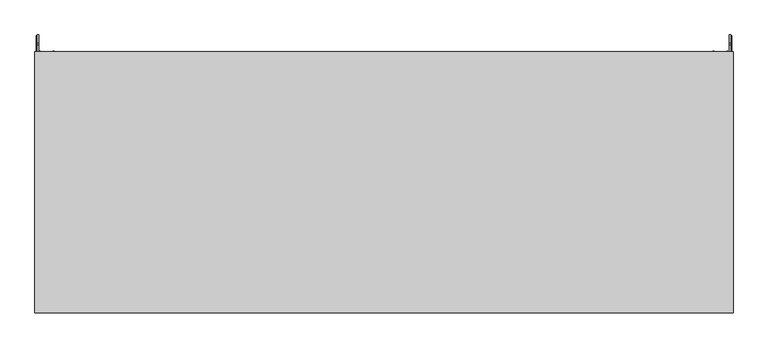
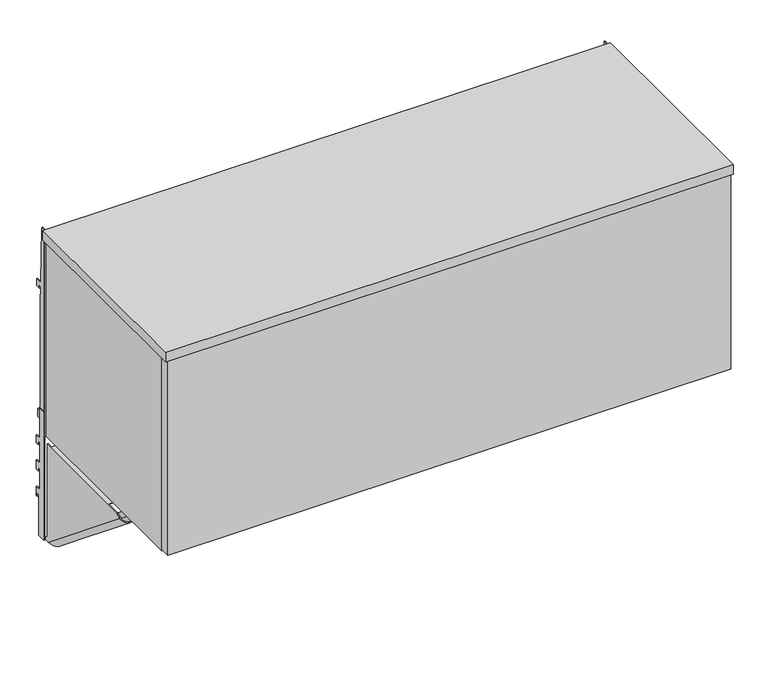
"""IFC4 building model written with IfcOpenShell, lengths in millimetres: furniture geometry, Steelcase - Universal Storage - In the Case Bin - Flat Front : For Montage - 42W."""

from ifc_helpers import new_model, si_unit, point, frame, frame_2d, origin, place, context, project, spatial, polyline, circle_curve, ellipse_curve, trimmed, segment, composite_curve, outline, extrude, faceted_brep, source, transform, mapped, element, save
from ifc_brep_helpers import plane_surface, cylinder_surface, revolved_surface, advanced_brep


def furniture_783a7f6e(model_context):
    return source(origin(), model_context, "Body", "SolidModel", [
        extrude(outline(polyline([(14.7026351, 1295.4127), (14.7026351, 1236.5862384), (24.9864881, 1236.5862384), (24.9864881, 1220.7113353), (18.8396885, 1220.7113353), (18.8396885, 1227.061311), (14.7756879, 1227.061311), (14.7756879, 1186.6498969), (24.9864881, 1186.6498969), (24.9864881, 1168.3872762), (18.8396885, 1168.3872762), (18.8396885, 1174.7373246), (14.7756879, 1174.7373246), (14.7756879, 1134.3259105), (24.9864881, 1134.3259105), (24.9864881, 1116.0632897), (21.4050888, 1116.0632897), (21.4050888, 1122.4132655), (17.3410881, 1122.4132655), (17.3410881, 1040.9809), (1.1327479, 1040.9809), (1.1327479, 1295.4127), (14.7026351, 1295.4127)])), frame((2.1844, 0.0, 0.0), z_axis=(1.0, 0.0, 0.0), x_axis=(0.0, 1.0, 0.0)), (0.0, 0.0, 1.0), 1.905),
        extrude(outline(polyline([(14.7026351, 1295.4127), (14.7026351, 1236.5862384), (24.9864881, 1236.5862384), (24.9864881, 1220.7113353), (18.8396885, 1220.7113353), (18.8396885, 1227.061311), (14.7756879, 1227.061311), (14.7756879, 1186.6498969), (24.9864881, 1186.6498969), (24.9864881, 1168.3872762), (18.8396885, 1168.3872762), (18.8396885, 1174.7373246), (14.7756879, 1174.7373246), (14.7756879, 1134.3259105), (24.9864881, 1134.3259105), (24.9864881, 1116.0632897), (21.4050888, 1116.0632897), (21.4050888, 1122.4132655), (17.3410881, 1122.4132655), (17.3410881, 1040.9809), (1.1327479, 1040.9809), (1.1327479, 1295.4127), (14.7026351, 1295.4127)])), frame((1062.7106, 0.0, 0.0), z_axis=(1.0, 0.0, 0.0), x_axis=(0.0, 1.0, 0.0)), (0.0, 0.0, 1.0), 1.905),
        advanced_brep(
        [(1037.7424, -230.0833372, 1233.8431), (1037.7424, 1.1327479, 1046.6079738), (1035.6342, 1.1327479, 1046.6079738), (1035.6342, -230.0833372, 1233.8431), (1035.6342, 1.1327479, 1040.9809), (1035.6342, -7.7654502, 1040.9809), (1035.6342, -240.6555763, 1229.5716381), (1058.9006, -7.7654502, 1040.9809), (1058.9006, -240.6555763, 1229.5716381), (1058.9006, 1.1327479, 1040.9809), (1058.9006, 1.1327479, 1046.6079738), (1058.9006, -3.080512, 1050.019805), (1058.9006, -3.080512, 1233.8431), (1058.9006, -230.0833372, 1233.8431), (1056.7924009, 1.1327479, 1046.6079738), (1056.7924009, -3.080512, 1050.019805), (1056.7924009, -7.7654502, 1040.9809), (1056.7924009, -240.6555763, 1229.5716381), (1056.7924009, -230.0833372, 1233.8431), (1056.7924009, -200.311512, 1233.8431), (1056.7924009, -200.311512, 1233.0049163), (1056.7924009, -14.0787123, 1233.0049163), (1056.7924009, -14.0787123, 1233.8431), (1056.7924009, -3.080512, 1233.8431), (1056.7924009, 1.1327479, 1040.9809), (1037.7424, -7.7654502, 1040.9809), (1037.7424, -240.6555763, 1229.5716381), (1037.7424, 1.1327479, 1040.9809), (1027.8617978, -200.311512, 1233.8431), (1027.8617978, -200.311512, 1252.2581016), (1027.0236, -200.311512, 1252.2581016), (1027.0236, -200.311512, 1233.0049163), (1027.0236, -82.5825138, 1252.2581016), (1027.8617978, -82.5825138, 1252.2581016), (1027.8617978, -82.5825138, 1233.8431), (1027.0236, -82.5825138, 1233.8431), (1027.0236, -14.0787123, 1233.8431), (1027.0236, -14.0787123, 1233.0049163)],
        [
            (0, 1),
            (1, 2),
            (2, 3),
            (3, 0),
            (2, 4),
            (4, 5),
            (5, 6),
            (6, 3),
            (5, 7, ellipse_curve(frame((1047.2674, -7.7654502, 1040.9809), z_axis=(0.0, 0.0, 1.0), x_axis=(0.0, -1.0, 0.0)), 18.4853359, 11.6332)),
            (7, 8),
            (8, 6, ellipse_curve(frame((1047.2674, -240.6555763, 1229.5716381), z_axis=(0.0, 0.374606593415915, -0.9271838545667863), x_axis=(0.0, -0.9271838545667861, -0.3746065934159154)), 13.3008659, 11.6332)),
            (7, 9),
            (9, 10),
            (10, 11),
            (11, 12),
            (12, 13),
            (13, 8),
            (10, 14),
            (14, 15),
            (15, 11),
            (16, 17),
            (17, 18),
            (18, 19),
            (19, 20),
            (20, 21),
            (21, 22),
            (22, 23),
            (23, 15),
            (14, 24),
            (24, 16),
            (16, 25, ellipse_curve(frame((1047.2674005, -7.7654502, 1040.9809), z_axis=(0.0, 0.0, -1.0), x_axis=(0.0, 1.0, 0.0)), 15.135374, 9.5250005)),
            (25, 26),
            (26, 17, ellipse_curve(frame((1047.2674005, -240.6555763, 1229.5716381), z_axis=(0.0, -0.374606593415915, 0.9271838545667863), x_axis=(0.0, 0.9271838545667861, 0.3746065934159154)), 10.8904475, 9.5250005)),
            (0, 26),
            (25, 27),
            (27, 1),
            (13, 18),
            (24, 9),
            (4, 27),
            (28, 29),
            (29, 30),
            (30, 31),
            (31, 20),
            (19, 28),
            (32, 33),
            (33, 34),
            (34, 35),
            (35, 32),
            (35, 36),
            (36, 37),
            (37, 31),
            (30, 32),
            (28, 34),
            (33, 29),
            (36, 22),
            (21, 37),
            (12, 23),
        ],
        [
            plane_surface(frame((1037.7424, -241.2702093, 1242.902052), z_axis=(0.0, 0.6293204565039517, 0.7771459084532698), x_axis=(0.0, 0.7771459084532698, -0.6293204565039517))),
            plane_surface(frame((1035.6342, -241.2702093, 1242.902052), z_axis=(-1.0000000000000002, 0.0, 0.0), x_axis=(0.0, 0.7771459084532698, -0.6293204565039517))),
            cylinder_surface(frame((1047.2674, 5.728998, 1030.0533094), z_axis=(0.0, -0.7771459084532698, 0.6293204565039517), x_axis=(0.0, 0.6293204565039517, 0.7771459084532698)), 11.6332),
            plane_surface(frame((1058.9006, -247.5463438, 1235.1516726), z_axis=(1.0000000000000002, 0.0, 0.0), x_axis=(0.0, 0.7771459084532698, -0.6293204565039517))),
            plane_surface(frame((1058.9006, -241.2702093, 1242.902052), z_axis=(0.0, 0.6293204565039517, 0.7771459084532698), x_axis=(0.0, 0.7771459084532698, -0.6293204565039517))),
            plane_surface(frame((1056.7924009, -241.2702093, 1242.902052), z_axis=(-1.0000000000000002, 0.0, 0.0), x_axis=(0.0, 0.7771459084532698, -0.6293204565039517))),
            revolved_surface(polyline([(1047.2674005, 7.3699238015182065, 1040.980900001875), (1047.2674005, -238.76446812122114, 1240.2966349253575)]), (1047.2674005, 5.728998, 1030.0533094), (0.0, 0.7771459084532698, -0.6293204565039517)),
            plane_surface(frame((1037.7424, -247.5463438, 1235.1516726), z_axis=(1.0000000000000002, 0.0, 0.0), x_axis=(0.0, 0.7771459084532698, -0.6293204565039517))),
            plane_surface(frame((1066.8, -257.2236519, 1222.8777011), z_axis=(0.0, -0.374606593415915, 0.9271838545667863), x_axis=(-1.0, 0.0, 0.0))),
            plane_surface(frame((1066.8, 1.1327479, 1040.9809), z_axis=(0.0, 0.0, -1.0), x_axis=(-1.0, 0.0, 0.0))),
            plane_surface(frame((1066.8, 1.1327479, 1053.6809), z_axis=(0.0, 1.0, 0.0), x_axis=(-1.0, 0.0, 0.0))),
            plane_surface(frame((1027.0236, -200.311512, 1252.2581016), z_axis=(0.0, -1.0, 0.0), x_axis=(0.0, 0.0, -1.0))),
            plane_surface(frame((1027.0236, -82.5825138, 1252.2581016), z_axis=(0.0, 1.0, 0.0), x_axis=(0.0, 0.0, 1.0))),
            plane_surface(frame((1027.0236, -200.311512, 1252.2581016), z_axis=(-1.0, 0.0, 0.0), x_axis=(0.0, 1.0, 0.0))),
            plane_surface(frame((1027.8617978, -200.311512, 1233.8431), z_axis=(1.0, 0.0, 0.0), x_axis=(0.0, 1.0, 0.0))),
            plane_surface(frame((1027.8617978, -200.311512, 1252.2581016), z_axis=(0.0, 0.0, 1.0), x_axis=(0.0, 1.0, 0.0))),
            plane_surface(frame((1027.0236, -14.0787123, 1233.8431), z_axis=(0.0, 1.0, 0.0), x_axis=(0.0, 0.0, 1.0))),
            plane_surface(frame((1027.0236, -200.311512, 1233.0049163), z_axis=(0.0, 0.0, -1.0), x_axis=(0.0, 1.0, 0.0))),
            plane_surface(frame((1058.9006, -200.311512, 1233.8431), z_axis=(0.0, 0.0, 1.0), x_axis=(0.0, 1.0, 0.0))),
            plane_surface(frame((1058.9006, -3.080512, 1050.019805), z_axis=(0.0, 1.0, 0.0), x_axis=(-1.0, 0.0, 0.0))),
        ],
        [
            (0, [[1, 2, 3, 4]]),
            (1, [[-3, 5, 6, 7, 8]]),
            (2, [[-7, 9, 10, 11]]),
            (3, [[-10, 12, 13, 14, 15, 16, 17]]),
            (4, [[18, 19, 20, -14]]),
            (5, [[21, 22, 23, 24, 25, 26, 27, 28, -19, 29, 30]]),
            (6, [[-21, 31, 32, 33]]),
            (7, [[-1, 34, -32, 35, 36]]),
            (8, [[-4, -8, -11, -17, 37, -22, -33, -34]]),
            (9, [[38, -12, -9, -6, 39, -35, -31, -30]]),
            (10, [[-38, -29, -18, -13]]),
            (10, [[-39, -5, -2, -36]]),
            (11, [[40, 41, 42, 43, -24, 44]]),
            (12, [[45, 46, 47, 48]]),
            (13, [[-48, 49, 50, 51, -42, 52]]),
            (14, [[-40, 53, -46, 54]]),
            (15, [[-41, -54, -45, -52]]),
            (16, [[-50, 55, -26, 56]]),
            (17, [[-51, -56, -25, -43]]),
            (18, [[57, -27, -55, -49, -47, -53, -44, -23, -37, -16]]),
            (19, [[-15, -20, -28, -57]]),
        ],
    ),
        advanced_brep(
        [(8.1026, -3.080512, 1050.019805), (8.1026, -3.080512, 1233.8431), (8.1026, -14.0787123, 1233.8431), (8.1026, -14.0787123, 1233.0049163), (8.1026, -200.311512, 1233.0049163), (8.1026, -200.311512, 1233.8431), (8.1026, -230.0833372, 1233.8431), (8.1026, -240.6555763, 1229.5716381), (8.1026, -7.7654502, 1040.9809), (8.1026, 1.1327479, 1040.9809), (8.1026, 1.1327479, 1046.6079738), (5.9944, -3.080512, 1233.8431), (5.9944, -3.080512, 1050.019805), (5.9944, 1.1327479, 1046.6079738), (5.9944, 1.1327479, 1040.9809), (5.9944, -7.7654502, 1040.9809), (5.9944, -240.6555763, 1229.5716381), (5.9944, -230.0833372, 1233.8431), (39.5732022, -200.311512, 1233.8431), (39.5732022, -82.5825138, 1233.8431), (40.4114, -82.5825138, 1233.8431), (40.4114, -14.0787123, 1233.8431), (29.2608, -7.7654502, 1040.9809), (29.2608, -240.6555763, 1229.5716381), (29.2608, 1.1327479, 1040.9809), (29.2608, 1.1327479, 1046.6079738), (29.2608, -230.0833372, 1233.8431), (27.1526009, 1.1327479, 1046.6079738), (27.1526009, -230.0833372, 1233.8431), (27.1526009, 1.1327479, 1040.9809), (27.1526009, -7.7654502, 1040.9809), (27.1526009, -240.6555763, 1229.5716381), (40.4114, -200.311512, 1233.0049163), (40.4114, -200.311512, 1252.2581016), (39.5732022, -200.311512, 1252.2581016), (40.4114, -14.0787123, 1233.0049163), (40.4114, -82.5825138, 1252.2581016), (39.5732022, -82.5825138, 1252.2581016)],
        [
            (0, 1),
            (1, 2),
            (2, 3),
            (3, 4),
            (4, 5),
            (5, 6),
            (6, 7),
            (7, 8),
            (8, 9),
            (9, 10),
            (10, 0),
            (11, 12),
            (12, 13),
            (13, 14),
            (14, 15),
            (15, 16),
            (16, 17),
            (17, 11),
            (17, 6),
            (5, 18),
            (18, 19),
            (19, 20),
            (20, 21),
            (21, 2),
            (1, 11),
            (0, 12),
            (10, 13),
            (15, 22, ellipse_curve(frame((17.6276, -7.7654502, 1040.9809), z_axis=(0.0, 0.0, 1.0), x_axis=(0.0, -1.0, 0.0)), 18.4853359, 11.6332)),
            (22, 23),
            (23, 16, ellipse_curve(frame((17.6276, -240.6555763, 1229.5716381), z_axis=(0.0, 0.374606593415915, -0.9271838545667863), x_axis=(0.0, -0.9271838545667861, -0.3746065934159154)), 13.3008659, 11.6332)),
            (22, 24),
            (24, 25),
            (25, 26),
            (26, 23),
            (25, 27),
            (27, 28),
            (28, 26),
            (27, 29),
            (29, 30),
            (30, 31),
            (31, 28),
            (7, 31, ellipse_curve(frame((17.6276005, -240.6555763, 1229.5716381), z_axis=(0.0, -0.374606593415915, 0.9271838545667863), x_axis=(0.0, 0.9271838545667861, 0.3746065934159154)), 10.8904475, 9.5250005)),
            (30, 8, ellipse_curve(frame((17.6276005, -7.7654502, 1040.9809), z_axis=(0.0, 0.0, -1.0), x_axis=(0.0, 1.0, 0.0)), 15.135374, 9.5250005)),
            (14, 9),
            (29, 24),
            (4, 32),
            (32, 33),
            (33, 34),
            (34, 18),
            (21, 35),
            (35, 3),
            (35, 32),
            (20, 36),
            (36, 33),
            (19, 37),
            (37, 36),
            (37, 34),
        ],
        [
            plane_surface(frame((8.1026, -230.0833372, 1233.8431), z_axis=(1.0, 0.0, 0.0), x_axis=(0.0, -1.0, 0.0))),
            plane_surface(frame((5.9944, -230.0833372, 1233.8431), z_axis=(-1.0, 0.0, 0.0), x_axis=(0.0, 1.0, 0.0))),
            plane_surface(frame((8.1026, -3.080512, 1233.8431), z_axis=(0.0, 0.0, 1.0), x_axis=(-1.0, 0.0, 0.0))),
            plane_surface(frame((8.1026, -3.080512, 1050.019805), z_axis=(0.0, 1.0, 0.0), x_axis=(-1.0, 0.0, 0.0))),
            plane_surface(frame((8.1026, -241.2702093, 1242.902052), z_axis=(0.0, 0.6293204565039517, 0.7771459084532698), x_axis=(0.0, 0.7771459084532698, -0.6293204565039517))),
            cylinder_surface(frame((17.6276, 5.728998, 1030.0533094), z_axis=(0.0, -0.7771459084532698, 0.6293204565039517), x_axis=(1.0, 0.0, 0.0)), 11.6332),
            plane_surface(frame((29.2608, -247.5463438, 1235.1516726), z_axis=(1.0000000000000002, 0.0, 0.0), x_axis=(0.0, 0.7771459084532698, -0.6293204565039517))),
            plane_surface(frame((29.2608, -241.2702093, 1242.902052), z_axis=(0.0, 0.6293204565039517, 0.7771459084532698), x_axis=(0.0, 0.7771459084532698, -0.6293204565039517))),
            plane_surface(frame((27.1526009, -241.2702093, 1242.902052), z_axis=(-1.0000000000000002, 0.0, 0.0), x_axis=(0.0, 0.7771459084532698, -0.6293204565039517))),
            revolved_surface(polyline([(27.152601, 1.375646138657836, 1033.5785848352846), (27.152601, -244.75874578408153, 1232.8943197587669)]), (17.6276005, 5.728998, 1030.0533094), (0.0, 0.7771459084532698, -0.6293204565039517)),
            plane_surface(frame((1066.8, -257.2236519, 1222.8777011), z_axis=(0.0, -0.374606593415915, 0.9271838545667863), x_axis=(-1.0, 0.0, 0.0))),
            plane_surface(frame((1066.8, 1.1327479, 1040.9809), z_axis=(0.0, 0.0, -1.0), x_axis=(-1.0, 0.0, 0.0))),
            plane_surface(frame((1066.8, 1.1327479, 1053.6809), z_axis=(0.0, 1.0, 0.0), x_axis=(-1.0, 0.0, 0.0))),
            plane_surface(frame((10.5986151, -200.311512, 1233.8431), z_axis=(0.0, -1.0, 0.0), x_axis=(-1.0, 0.0, 0.0))),
            plane_surface(frame((10.5986151, -14.0787123, 1233.8431), z_axis=(0.0, 1.0, 0.0), x_axis=(1.0, 0.0, 0.0))),
            plane_surface(frame((8.1026, -200.311512, 1233.0049163), z_axis=(0.0, 0.0, -1.0), x_axis=(0.0, 1.0, 0.0))),
            plane_surface(frame((40.4114, -200.311512, 1233.0049163), z_axis=(1.0, 0.0, 0.0), x_axis=(0.0, 1.0, 0.0))),
            plane_surface(frame((38.1509305, -82.5825138, 1252.2581016), z_axis=(0.0, 1.0, 0.0), x_axis=(1.0, 0.0, 0.0))),
            plane_surface(frame((40.4114, -200.311512, 1252.2581016), z_axis=(0.0, 0.0, 1.0), x_axis=(0.0, 1.0, 0.0))),
            plane_surface(frame((39.5732022, -200.311512, 1252.2581016), z_axis=(-1.0, 0.0, 0.0), x_axis=(0.0, 1.0, 0.0))),
        ],
        [
            (0, [[1, 2, 3, 4, 5, 6, 7, 8, 9, 10, 11]]),
            (1, [[12, 13, 14, 15, 16, 17, 18]]),
            (2, [[-18, 19, -6, 20, 21, 22, 23, 24, -2, 25]]),
            (3, [[-1, 26, -12, -25]]),
            (4, [[-26, -11, 27, -13]]),
            (5, [[-16, 28, 29, 30]]),
            (6, [[-29, 31, 32, 33, 34]]),
            (7, [[-33, 35, 36, 37]]),
            (8, [[-36, 38, 39, 40, 41]]),
            (9, [[-8, 42, -40, 43]]),
            (10, [[-7, -19, -17, -30, -34, -37, -41, -42]]),
            (11, [[44, -9, -43, -39, 45, -31, -28, -15]]),
            (12, [[-44, -14, -27, -10]]),
            (12, [[-45, -38, -35, -32]]),
            (13, [[46, 47, 48, 49, -20, -5]]),
            (14, [[50, 51, -3, -24]]),
            (15, [[-46, -4, -51, 52]]),
            (16, [[-47, -52, -50, -23, 53, 54]]),
            (17, [[-53, -22, 55, 56]]),
            (18, [[-48, -54, -56, 57]]),
            (19, [[-49, -57, -55, -21]]),
        ],
    ),
        faceted_brep([(1047.8516023, -9.7789998, 1640.3955), (1047.8516023, -9.7789998, 1652.2572326), (1047.8516023, -10.6172003, 1652.2572326), (1047.8516023, -10.6172003, 1639.557281), (1047.8516023, -0.8382, 1639.557281), (1047.8516023, -0.8382266, 1640.3955), (17.0434001, -9.7789998, 1640.3955), (17.0434001, -0.8382, 1640.3955), (17.0434001, -0.8382011, 1639.557281), (17.0434001, -10.6172003, 1639.557281), (17.0434001, -10.6172003, 1652.2572326), (17.0434001, -9.7789998, 1652.2572326), (1050.4837557, -30.9238769, 1640.3955), (1051.3187599, -30.850824, 1640.3955), (1048.6930117, -0.8382, 1640.3955), (1062.7106, -0.8382, 1640.3955), (1062.7106, 0.1784978, 1640.3955), (2.1844, 0.1784978, 1640.3955), (2.1844, -0.8382, 1640.3955), (16.2019988, -0.8382, 1640.3955), (13.5762335, -30.850824, 1640.3955), (14.4176356, -30.850824, 1640.3955), (1062.7106, 0.1784978, 1247.9655), (1062.7106, -0.8382, 1247.9655), (1048.6930117, -0.8382, 1247.9655), (1051.3187599, -30.850824, 1247.9655), (1050.4837557, -30.9238769, 1247.9655), (1047.8516, -0.8382, 1247.9655), (17.0434002, -0.8382, 1247.9655), (14.4176356, -30.850824, 1247.9655), (13.5762335, -30.850824, 1247.9655), (16.2019988, -0.8382, 1247.9655), (2.1844, -0.8382, 1247.9655), (2.1844, 0.1784978, 1247.9655)], [[[0, 1, 2, 3, 4, 5]], [[6, 7, 8, 9, 10, 11]], [[1, 0, 6, 11]], [[2, 1, 11, 10]], [[3, 2, 10, 9]], [[4, 3, 9, 8]], [[0, 5, 12, 13, 14, 15, 16, 17, 18, 19, 20, 21, 7, 6]], [[22, 23, 24, 25, 26, 27, 28, 29, 30, 31, 32, 33]], [[17, 16, 22, 33]], [[18, 17, 33, 32]], [[19, 18, 32, 31]], [[20, 19, 31, 30]], [[21, 20, 30, 29]], [[7, 21, 29, 28, 8]], [[28, 27, 4, 8]], [[12, 5, 4, 27, 26]], [[13, 12, 26, 25]], [[14, 13, 25, 24]], [[15, 14, 24, 23]], [[16, 15, 23, 22]]]),
        faceted_brep([(1031.3415999, -61.4680004, 1256.4236903), (1031.3415999, -61.4680004, 1248.8037), (1031.3415999, -60.6298021, 1248.8037), (1031.3415999, -60.6298021, 1256.4236903), (33.5534002, -61.4680004, 1256.4236903), (33.5534002, -60.6298021, 1256.4236903), (33.5534002, -60.6298021, 1248.8037), (33.5534002, -61.468, 1248.8037), (17.0434001, -61.4680004, 1248.8037), (17.0434001, -61.4680004, 1247.9655), (1047.8516023, -61.4680004, 1247.9655), (1047.8516023, -61.4680004, 1248.8037), (1047.8516023, -0.8382, 1247.9655), (1047.8516023, -0.8382, 1248.8037), (17.0434001, -0.8382, 1248.8037), (17.0434001, -0.8382, 1247.9655)], [[[0, 1, 2, 3]], [[4, 5, 6, 7]], [[1, 0, 4, 7, 8, 9, 10, 11]], [[3, 2, 6, 5]], [[0, 3, 5, 4]], [[11, 10, 12, 13]], [[8, 14, 15, 9]], [[12, 10, 9, 15]], [[13, 12, 15, 14]], [[11, 13, 14, 8, 7, 6, 2, 1]]]),
        extrude(outline(composite_curve([segment(polyline([(-343.4401318, 1291.8437595), (-377.213238, 1291.8437595), (-377.213238, 1639.09375), (-30.850824, 1639.09375), (-30.850824, 1638.0577444), (-372.9486617, 1638.0577444)]), True, "CONTINUOUS"), segment(trimmed(circle_curve(frame_2d((-372.9486617, 1635.1839261)), 2.8738183), [point((-372.9486617, 1638.0577444))], [point((-375.82248, 1635.1839261))], True, "CARTESIAN"), True, "CONTINUOUS"), segment(polyline([(-375.82248, 1635.1839261), (-375.82248, 1292.9867129), (-343.4401318, 1292.9867129), (-343.4401318, 1291.8437595)]), True, "CONTINUOUS")], self_intersect=False)), frame((525.1266311, 0.0, 0.0), z_axis=(1.0, 0.0, 0.0), x_axis=(0.0, 1.0, 0.0)), (0.0, 0.0, 1.0), 16.5467378),
        extrude(outline(polyline([(1066.8, -399.4977324), (0.0, -399.4977324), (0.0, 0.0), (1066.8, 0.0), (1066.8, -399.4977324)])), frame((0.0, 0.0, 1639.490625), z_axis=(0.0, 0.0, 1.0), x_axis=(1.0, 0.0, 0.0)), (0.0, 0.0, 1.0), 19.05),
        extrude(outline(polyline([(4.4448587, -378.8585852), (1062.3703, -378.8585852), (1062.3703, -399.0261526), (4.4448587, -399.0261526), (4.4448587, -378.8585852)])), frame((0.0, 0.0, 1253.2134107), z_axis=(0.0, 0.0, 1.0), x_axis=(1.0, 0.0, 0.0)), (0.0, 0.0, 1.0), 386.3690475),
        extrude(outline(polyline([(0.0, 1657.096), (10.1677703, 1657.096), (13.3857995, 1545.8185744), (26.0095997, 1545.8185744), (26.0095997, 1532.1025512), (17.5768, 1532.1025512), (17.5768, 1537.1064608), (13.3349998, 1537.1064608), (13.3349998, 1522.6538546), (14.2747998, 1522.6538546), (14.2747998, 1296.0858527), (17.2466001, 1296.0858527), (17.2466001, 1289.7358043), (22.5806007, 1289.7358043), (22.5806007, 1274.2164027), (0.0, 1274.2164027), (0.0, 1657.096)])), frame((1061.2882, 0.0, 0.0), z_axis=(1.0, 0.0, 0.0), x_axis=(0.0, 1.0, 0.0)), (0.0, 0.0, 1.0), 1.905),
        extrude(outline(polyline([(15.875, -377.213238), (5.5118, -377.213238), (5.5118, 0.0), (15.875, 0.0), (15.875, -377.213238)])), frame((0.0, 0.0, 1247.9655), z_axis=(0.0, 0.0, 1.0), x_axis=(1.0, 0.0, 0.0)), (0.0, 0.0, 1.0), 391.2710707),
        extrude(outline(polyline([(1065.6568665, -377.213238), (1050.925, -377.213238), (1050.925, 0.0), (1065.6568665, 0.0), (1065.6568665, -377.213238)])), frame((0.0, 0.0, 1247.9655), z_axis=(0.0, 0.0, 1.0), x_axis=(1.0, 0.0, 0.0)), (0.0, 0.0, 1.0), 391.2710707),
        extrude(outline(polyline([(0.0, 1657.096), (10.1677703, 1657.096), (13.3857995, 1545.8185744), (26.0095997, 1545.8185744), (26.0095997, 1532.1025512), (17.5768, 1532.1025512), (17.5768, 1537.1064608), (13.3349998, 1537.1064608), (13.3349998, 1522.6538546), (14.2747998, 1522.6538546), (14.2747998, 1296.0858527), (17.2466001, 1296.0858527), (17.2466001, 1289.7358043), (22.5806007, 1289.7358043), (22.5806007, 1274.2164027), (0.0, 1274.2164027), (0.0, 1657.096)])), frame((3.6068, 0.0, 0.0), z_axis=(1.0, 0.0, 0.0), x_axis=(0.0, 1.0, 0.0)), (0.0, 0.0, 1.0), 1.905),
        extrude(outline(polyline([(-35.4584098, 1372.819257), (-27.0763996, 1372.819257), (-27.0763996, 1360.1191601), (-33.4264117, 1360.1191601), (-33.4264117, 1323.1622589), (-27.0763996, 1323.1622589), (-27.0763996, 1265.428), (-35.4584098, 1265.428), (-35.4584098, 1293.054213), (-46.1263996, 1293.054213), (-46.1263996, 1268.1875622), (-59.9694137, 1268.1875622), (-59.9694137, 1294.8575912), (-332.8542818, 1294.8575912), (-332.8542818, 1268.1875622), (-377.3042823, 1268.1875622), (-377.3042823, 1310.7072052), (-35.4584098, 1310.7072052), (-35.4584098, 1372.819257)])), frame((15.875, 0.0, 0.0), z_axis=(1.0, 0.0, 0.0), x_axis=(0.0, 1.0, 0.0)), (0.0, 0.0, 1.0), 1035.05),
    ])


if __name__ == "__main__":
    model = new_model("IFC4")
    model_context = context("Model", 3, world=origin())
    ifc_project = project(units=[si_unit("LENGTHUNIT", "METRE", prefix="MILLI")], contexts=[model_context])
    site = spatial("IfcSite", under=ifc_project)
    building = spatial("IfcBuilding", under=site)
    placement = place(None, origin())
    furniture_shape = furniture_783a7f6e(model_context)
    element("IfcFurniture", 1, ObjectType="Steelcase - Universal Storage - In the Case Bin - Flat Front : For Montage - 42W", at=placement, inside=building, context=model_context, shape_type="MappedRepresentation", body=[
        mapped(furniture_shape, transform((0.0, 0.0, 0.0), x_axis=(1.0, 0.0, 0.0), y_axis=(0.0, 1.0, 0.0), z_axis=(0.0, 0.0, 1.0))),
    ])
    save(model, "model.ifc")
